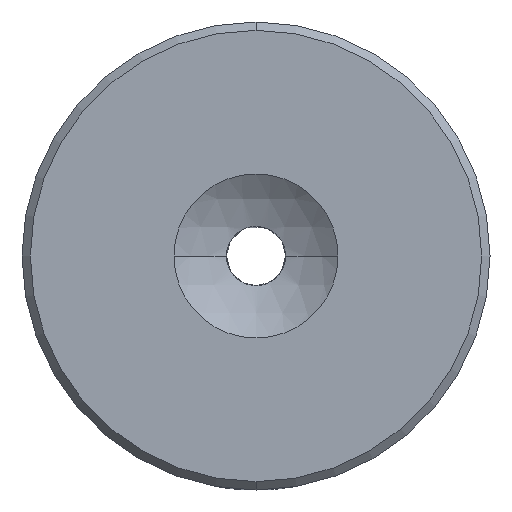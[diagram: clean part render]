
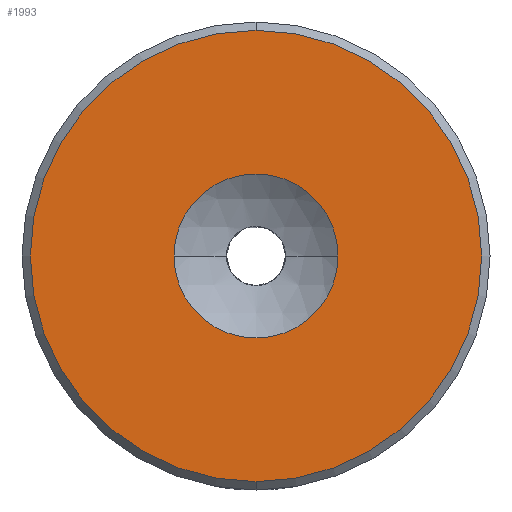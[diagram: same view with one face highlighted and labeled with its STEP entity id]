
A CAD part, front view. The second image highlights one B-rep face of the part: STEP entity #1993.
In plain terms, the highlighted planar face has unit normal (0, -1, 0).
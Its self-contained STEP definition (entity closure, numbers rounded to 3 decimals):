
#11 = DIRECTION ( 'NONE',  ( 0., 0., 1. ) ) ;
#68 = VERTEX_POINT ( 'NONE', #1739 ) ;
#82 = PLANE ( 'NONE',  #1733 ) ;
#83 = AXIS2_PLACEMENT_3D ( 'NONE', #572, #547, #2981 ) ;
#121 = FACE_OUTER_BOUND ( 'NONE', #1182, .T. ) ;
#290 = ORIENTED_EDGE ( 'NONE', *, *, #355, .T. ) ;
#355 = EDGE_CURVE ( 'NONE', #1838, #1601, #2133, .T. ) ;
#399 = FACE_BOUND ( 'NONE', #1439, .T. ) ;
#423 = DIRECTION ( 'NONE',  ( 0., 1., 0. ) ) ;
#547 = DIRECTION ( 'NONE',  ( 0., -1., 0. ) ) ;
#553 = CARTESIAN_POINT ( 'NONE',  ( 0., 0., 13.5 ) ) ;
#572 = CARTESIAN_POINT ( 'NONE',  ( 0., 0., 0. ) ) ;
#921 = DIRECTION ( 'NONE',  ( 0., -1., 0. ) ) ;
#1025 = DIRECTION ( 'NONE',  ( 0., 0., 1. ) ) ;
#1095 = AXIS2_PLACEMENT_3D ( 'NONE', #1499, #921, #3286 ) ;
#1182 = EDGE_LOOP ( 'NONE', ( #3513, #290 ) ) ;
#1186 = DIRECTION ( 'NONE',  ( 0., -1., 0. ) ) ;
#1439 = EDGE_LOOP ( 'NONE', ( #1552, #2148 ) ) ;
#1451 = AXIS2_PLACEMENT_3D ( 'NONE', #1728, #2398, #11 ) ;
#1499 = CARTESIAN_POINT ( 'NONE',  ( 0., 0., 0. ) ) ;
#1552 = ORIENTED_EDGE ( 'NONE', *, *, #3644, .F. ) ;
#1601 = VERTEX_POINT ( 'NONE', #553 ) ;
#1697 = EDGE_CURVE ( 'NONE', #68, #3425, #3450, .T. ) ;
#1728 = CARTESIAN_POINT ( 'NONE',  ( 0., 0., 0. ) ) ;
#1733 = AXIS2_PLACEMENT_3D ( 'NONE', #2786, #423, #1025 ) ;
#1739 = CARTESIAN_POINT ( 'NONE',  ( 4.905, 0., 0. ) ) ;
#1838 = VERTEX_POINT ( 'NONE', #2432 ) ;
#1993 = ADVANCED_FACE ( 'NONE', ( #121, #399 ), #82, .F. ) ;
#2133 = CIRCLE ( 'NONE', #83, 13.5 ) ;
#2148 = ORIENTED_EDGE ( 'NONE', *, *, #1697, .F. ) ;
#2253 = EDGE_CURVE ( 'NONE', #1601, #1838, #3224, .T. ) ;
#2290 = CIRCLE ( 'NONE', #1451, 4.905 ) ;
#2398 = DIRECTION ( 'NONE',  ( 0., -1., 0. ) ) ;
#2432 = CARTESIAN_POINT ( 'NONE',  ( 0., 0., -13.5 ) ) ;
#2786 = CARTESIAN_POINT ( 'NONE',  ( 0., 0., 0. ) ) ;
#2981 = DIRECTION ( 'NONE',  ( 0., 0., 1. ) ) ;
#2997 = CARTESIAN_POINT ( 'NONE',  ( 0., 0., 0. ) ) ;
#3158 = AXIS2_PLACEMENT_3D ( 'NONE', #2997, #1186, #3272 ) ;
#3224 = CIRCLE ( 'NONE', #3158, 13.5 ) ;
#3272 = DIRECTION ( 'NONE',  ( 0., 0., 1. ) ) ;
#3286 = DIRECTION ( 'NONE',  ( 0., 0., 1. ) ) ;
#3425 = VERTEX_POINT ( 'NONE', #3538 ) ;
#3450 = CIRCLE ( 'NONE', #1095, 4.905 ) ;
#3513 = ORIENTED_EDGE ( 'NONE', *, *, #2253, .T. ) ;
#3538 = CARTESIAN_POINT ( 'NONE',  ( -4.905, 0., 0. ) ) ;
#3644 = EDGE_CURVE ( 'NONE', #3425, #68, #2290, .T. ) ;
